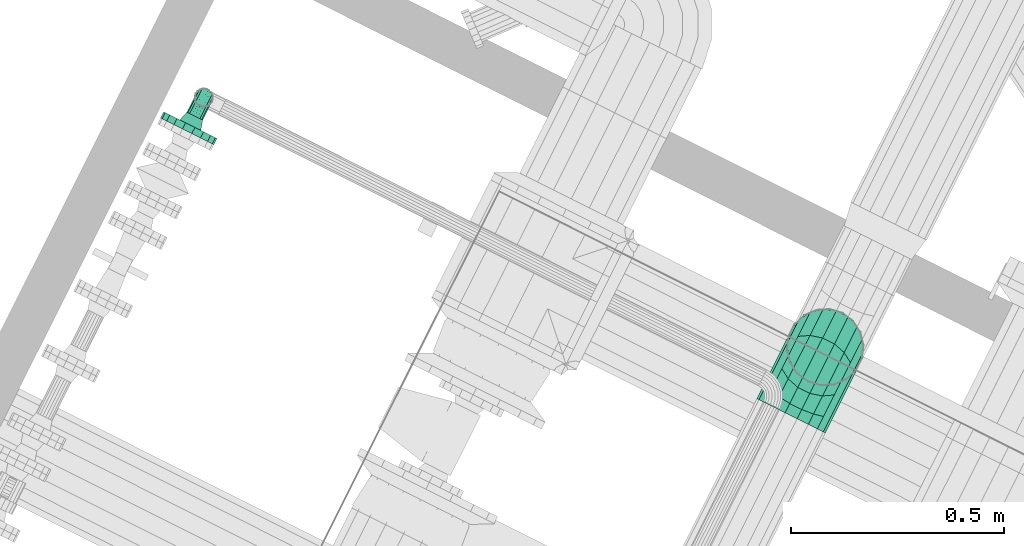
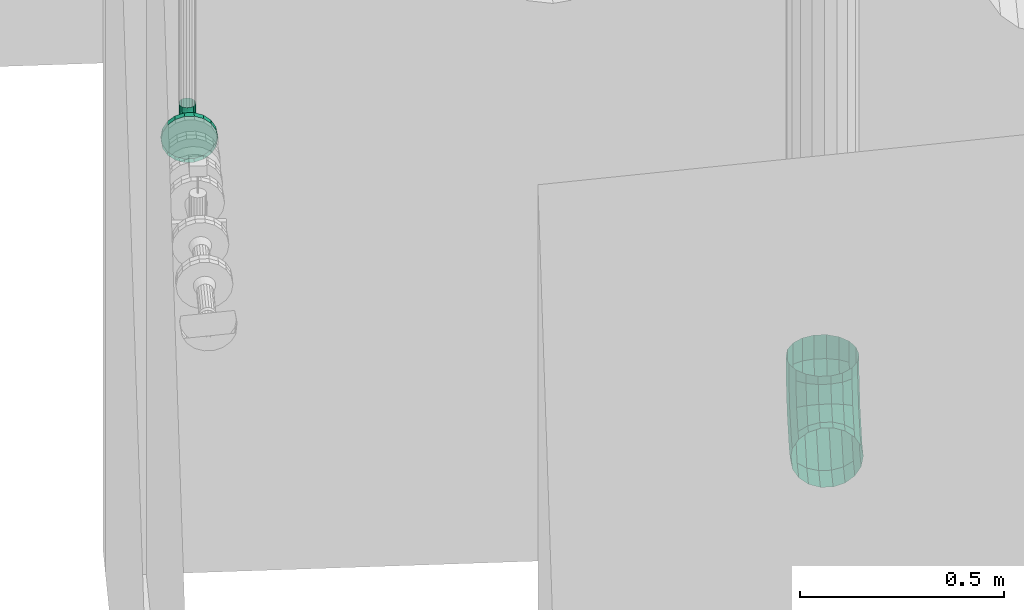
# One storey, part 148 of 206: 2 flow fittings, 1 flow segment.
"""IFC2X3 building model written with IfcOpenShell, lengths in metres."""

from ifc_helpers import new_model, si_unit, derived_unit, direction, frame, origin, place, context, subcontext, project, spatial, face_set, surface_model, source, transform, mapped, material, type_object, type_shapes, element, save


model = new_model("IFC2X3")

# Units and contexts
model_context = context("Model", 3, precision=5.2338327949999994e-05, world=origin(), true_north=direction((0.0, 1.0)))
body_context = subcontext(model_context, "Body", "Model", "MODEL_VIEW")
ifc_project = project(units=[si_unit("LENGTHUNIT", "METRE"), si_unit("AREAUNIT", "SQUARE_METRE"), si_unit("VOLUMEUNIT", "CUBIC_METRE"), si_unit("MASSUNIT", "GRAM", prefix="KILO"), si_unit("PLANEANGLEUNIT", "RADIAN"), derived_unit("THERMALTRANSMITTANCEUNIT", [(si_unit("MASSUNIT", "GRAM", prefix="KILO"), 1), (si_unit("THERMODYNAMICTEMPERATUREUNIT", "KELVIN"), -1), (si_unit("TIMEUNIT", "SECOND"), -3)])], contexts=[model_context])

# Site, building, storey
site_placement = place(None, frame((0.0, 0.0, 0.0), z_axis=(0.0, 0.0, 1.0), x_axis=(0.8939966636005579, -0.4480736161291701, 0.0)))
site = spatial("IfcSite", under=ifc_project, at=site_placement, Name="Default", CompositionType="ELEMENT")
building_placement = place(site_placement, origin())
building = spatial("IfcBuilding", under=site, at=building_placement, CompositionType="ELEMENT")
storey_placement = place(building_placement, origin())
storey = spatial("IfcBuildingStorey", under=building, at=storey_placement, Name="Erdgeschoss", CompositionType="ELEMENT", Elevation=0.0)

# Flow fittings
ifc_material_1 = material(Name="IfcSurfaceStyle #251447")
distribution_element_type_1 = type_object("IfcDistributionElementType", Name="Segmentbogen 4 teilig:Segmentbogen 4 teilig", material=ifc_material_1)
shared_shape_1 = source(origin(), body_context, "Body", "SurfaceModel", [
    surface_model("IfcFaceBasedSurfaceModel", [(30.56000000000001, 9.673208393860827, 0.539999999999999), (30.565427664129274, 9.673208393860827, 0.5707818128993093), (30.565427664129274, 9.713191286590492, 0.5707818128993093), (30.56000000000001, 9.721439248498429, 0.539999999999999), (30.581056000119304, 9.673208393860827, 0.5978508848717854), (30.581056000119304, 9.705938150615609, 0.5978508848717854), (30.605000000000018, 9.673208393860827, 0.6179422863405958), (30.605000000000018, 9.70055467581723, 0.6179422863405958), (30.634371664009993, 9.673208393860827, 0.628632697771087), (30.634371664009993, 9.697690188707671, 0.628632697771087), (30.665628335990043, 9.673208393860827, 0.6286326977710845), (30.665628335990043, 9.697690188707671, 0.6286326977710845), (30.69500000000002, 9.673208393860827, 0.6179422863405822), (30.69500000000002, 9.70055467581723, 0.6179422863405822), (30.71894399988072, 9.673208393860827, 0.597850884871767), (30.71894399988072, 9.705938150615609, 0.597850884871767), (30.73457233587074, 9.673208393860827, 0.5707818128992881), (30.73457233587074, 9.713191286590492, 0.5707818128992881), (30.740000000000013, 9.673208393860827, 0.5399999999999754), (30.740000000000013, 9.721439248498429, 0.5399999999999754), (30.734572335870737, 9.673208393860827, 0.5092181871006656), (30.734572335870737, 9.729687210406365, 0.5092181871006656), (30.718943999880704, 9.673208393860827, 0.4821491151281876), (30.718943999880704, 9.736940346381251, 0.4821491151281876), (30.695, 9.673208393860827, 0.46205771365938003), (30.695, 9.742323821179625, 0.46205771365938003), (30.66562833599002, 9.673208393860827, 0.45136730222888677), (30.66562833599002, 9.745188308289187, 0.45136730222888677), (30.63437166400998, 9.673208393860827, 0.4513673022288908), (30.63437166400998, 9.745188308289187, 0.4513673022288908), (30.604999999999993, 9.673208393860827, 0.46205771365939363), (30.604999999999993, 9.742323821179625, 0.46205771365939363), (30.58105600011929, 9.673208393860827, 0.48214911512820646), (30.58105600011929, 9.736940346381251, 0.48214911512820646), (30.56542766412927, 9.673208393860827, 0.5092181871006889), (30.56542766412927, 9.729687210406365, 0.5092181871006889), (30.565427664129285, 9.78244368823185, 0.6107647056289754), (30.560000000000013, 9.804977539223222, 0.5882308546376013), (30.58105600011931, 9.762627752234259, 0.6305806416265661), (30.60500000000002, 9.747919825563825, 0.645288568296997), (30.63437166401, 9.740093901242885, 0.6531144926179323), (30.665628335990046, 9.740093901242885, 0.6531144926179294), (30.69500000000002, 9.747919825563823, 0.6452885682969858), (30.71894399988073, 9.762627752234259, 0.6305806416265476), (30.734572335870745, 9.78244368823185, 0.610764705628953), (30.740000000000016, 9.804977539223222, 0.5882308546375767), (30.734572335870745, 9.8275113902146, 0.5656970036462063), (30.718943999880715, 9.84732732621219, 0.5458810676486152), (30.695000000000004, 9.862035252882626, 0.5311731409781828), (30.665628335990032, 9.869861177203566, 0.5233472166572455), (30.634371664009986, 9.869861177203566, 0.5233472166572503), (30.605000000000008, 9.862035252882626, 0.5311731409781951), (30.5810560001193, 9.847327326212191, 0.5458810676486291), (30.56542766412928, 9.8275113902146, 0.565697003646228), (30.565427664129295, 9.822426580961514, 0.6800171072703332), (30.560000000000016, 9.853208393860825, 0.6717691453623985), (30.58105600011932, 9.795357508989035, 0.6872702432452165), (30.605000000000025, 9.775266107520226, 0.69265371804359), (30.634371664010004, 9.764575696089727, 0.6955182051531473), (30.665628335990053, 9.764575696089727, 0.6955182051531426), (30.695000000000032, 9.775266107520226, 0.6926537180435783), (30.71894399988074, 9.795357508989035, 0.687270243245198), (30.73457233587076, 9.822426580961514, 0.6800171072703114), (30.74000000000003, 9.853208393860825, 0.6717691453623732), (30.73457233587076, 9.883990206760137, 0.663521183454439), (30.71894399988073, 9.911059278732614, 0.6562680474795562), (30.69500000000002, 9.931150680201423, 0.650884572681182), (30.665628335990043, 9.941841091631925, 0.6480200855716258), (30.634371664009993, 9.941841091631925, 0.6480200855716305), (30.605000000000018, 9.931150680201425, 0.6508845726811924), (30.58105600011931, 9.911059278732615, 0.656268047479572), (30.565427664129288, 9.883990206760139, 0.6635211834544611), (30.565427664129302, 9.822426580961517, 0.7199999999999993), (30.560000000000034, 9.853208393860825, 0.7200000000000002), (30.58105600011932, 9.795357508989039, 0.7199999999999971), (30.605000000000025, 9.775266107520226, 0.719999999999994), (30.634371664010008, 9.764575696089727, 0.7199999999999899), (30.665628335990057, 9.764575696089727, 0.7199999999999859), (30.695000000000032, 9.775266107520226, 0.7199999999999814), (30.718943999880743, 9.795357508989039, 0.7199999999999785), (30.73457233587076, 9.822426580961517, 0.7199999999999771), (30.740000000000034, 9.853208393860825, 0.7199999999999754), (30.73457233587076, 9.883990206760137, 0.7199999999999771), (30.718943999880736, 9.911059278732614, 0.7199999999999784), (30.695000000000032, 9.931150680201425, 0.7199999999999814), (30.665628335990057, 9.941841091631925, 0.7199999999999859), (30.634371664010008, 9.941841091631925, 0.7199999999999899), (30.605000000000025, 9.931150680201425, 0.719999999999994), (30.58105600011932, 9.911059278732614, 0.719999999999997), (30.565427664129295, 9.883990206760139, 0.7199999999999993)], [face_set([[[0, 1, 2, 3]], [[1, 4, 5, 2]], [[4, 6, 7, 5]], [[6, 8, 9, 7]], [[8, 10, 11, 9]], [[10, 12, 13, 11]], [[12, 14, 15, 13]], [[14, 16, 17, 15]], [[16, 18, 19, 17]], [[18, 20, 21, 19]], [[20, 22, 23, 21]], [[22, 24, 25, 23]], [[24, 26, 27, 25]], [[26, 28, 29, 27]], [[28, 30, 31, 29]], [[30, 32, 33, 31]], [[32, 34, 35, 33]], [[34, 0, 3, 35]], [[3, 2, 36, 37]], [[2, 5, 38, 36]], [[5, 7, 39, 38]], [[7, 9, 40, 39]], [[9, 11, 41, 40]], [[11, 13, 42, 41]], [[13, 15, 43, 42]], [[15, 17, 44, 43]], [[17, 19, 45, 44]], [[19, 21, 46, 45]], [[21, 23, 47, 46]], [[23, 25, 48, 47]], [[25, 27, 49, 48]], [[27, 29, 50, 49]], [[29, 31, 51, 50]], [[31, 33, 52, 51]], [[33, 35, 53, 52]], [[35, 3, 37, 53]], [[37, 36, 54, 55]], [[36, 38, 56, 54]], [[38, 39, 57, 56]], [[39, 40, 58, 57]], [[40, 41, 59, 58]], [[41, 42, 60, 59]], [[42, 43, 61, 60]], [[43, 44, 62, 61]], [[44, 45, 63, 62]], [[45, 46, 64, 63]], [[46, 47, 65, 64]], [[47, 48, 66, 65]], [[48, 49, 67, 66]], [[49, 50, 68, 67]], [[50, 51, 69, 68]], [[51, 52, 70, 69]], [[52, 53, 71, 70]], [[53, 37, 55, 71]], [[55, 54, 72, 73]], [[54, 56, 74, 72]], [[56, 57, 75, 74]], [[57, 58, 76, 75]], [[58, 59, 77, 76]], [[59, 60, 78, 77]], [[60, 61, 79, 78]], [[61, 62, 80, 79]], [[62, 63, 81, 80]], [[63, 64, 82, 81]], [[64, 65, 83, 82]], [[65, 66, 84, 83]], [[66, 67, 85, 84]], [[67, 68, 86, 85]], [[68, 69, 87, 86]], [[69, 70, 88, 87]], [[70, 71, 89, 88]], [[71, 55, 73, 89]]])]),
])
type_shapes(distribution_element_type_1, [shared_shape_1])
flow_fitting_1_placement = place(storey_placement, origin())
element("IfcFlowFitting", 1, at=flow_fitting_1_placement, inside=storey, type_object=distribution_element_type_1, material=ifc_material_1, Name="Segmentbogen 4 teilig", ObjectType="Segmentbogen 4 teilig", context=body_context, shape_type="MappedRepresentation", body=[
    mapped(shared_shape_1, transform((0.0, 0.0, 0.0), scale=1.0)),
])
ifc_material_2 = material(Name="IfcSurfaceStyle #352577")
distribution_element_type_2 = type_object("IfcDistributionElementType", Name="Flansch 611033:Flansch 611033", material=ifc_material_2)
shared_shape_2 = source(origin(), body_context, "Body", "SurfaceModel", [
    surface_model("IfcFaceBasedSurfaceModel", [(29.08181854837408, 9.675162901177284, 1.6052041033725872), (29.074567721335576, 9.675162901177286, 1.603925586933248), (29.072241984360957, 9.651162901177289, 1.6103154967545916), (29.08181854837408, 9.651162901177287, 1.6120041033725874), (29.06819145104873, 9.675162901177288, 1.600244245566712), (29.06382049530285, 9.651162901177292, 1.6054533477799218), (29.063458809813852, 9.675162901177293, 1.5946041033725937), (29.05756983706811, 9.651162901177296, 1.5980041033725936), (29.060940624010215, 9.675162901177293, 1.5876854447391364), (29.054243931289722, 9.651162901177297, 1.588866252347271), (29.060940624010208, 9.675162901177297, 1.580322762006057), (29.054243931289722, 9.6511629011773, 1.5791419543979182), (29.06345880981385, 9.675162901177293, 1.5734041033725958), (29.057569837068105, 9.651162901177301, 1.5700041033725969), (29.068191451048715, 9.675162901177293, 1.567763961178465), (29.063820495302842, 9.651162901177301, 1.5625548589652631), (29.074567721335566, 9.675162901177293, 1.564082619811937), (29.072241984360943, 9.651162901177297, 1.557692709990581), (29.081818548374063, 9.675162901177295, 1.5628041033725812), (29.08181854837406, 9.651162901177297, 1.5560041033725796), (29.08906937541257, 9.675162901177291, 1.5640826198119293), (29.091395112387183, 9.651162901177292, 1.5576927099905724), (29.095445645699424, 9.67516290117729, 1.5677639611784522), (29.099816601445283, 9.651162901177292, 1.5625548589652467), (29.1001782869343, 9.675162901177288, 1.5734041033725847), (29.10606725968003, 9.651162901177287, 1.5700041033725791), (29.102696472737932, 9.675162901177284, 1.580322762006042), (29.10939316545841, 9.651162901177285, 1.5791419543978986), (29.102696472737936, 9.675162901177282, 1.5876854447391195), (29.109393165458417, 9.651162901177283, 1.5888662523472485), (29.10017828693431, 9.675162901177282, 1.5946041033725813), (29.10606725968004, 9.651162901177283, 1.598004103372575), (29.09544564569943, 9.675162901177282, 1.6002442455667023), (29.0998166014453, 9.651162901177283, 1.6054533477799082), (29.08906937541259, 9.675162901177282, 1.6039255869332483), (29.091395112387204, 9.651162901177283, 1.6103154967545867), (29.15181854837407, 9.65116290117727, 1.5840041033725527), (29.14759703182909, 9.651162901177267, 1.6079455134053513), (29.147597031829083, 9.635162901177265, 1.6079455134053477), (29.15181854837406, 9.63516290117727, 1.5840041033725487), (29.13544165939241, 9.651162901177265, 1.628999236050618), (29.13544165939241, 9.635162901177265, 1.628999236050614), (29.116818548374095, 9.651162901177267, 1.644625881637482), (29.116818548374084, 9.635162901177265, 1.6446258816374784), (29.093973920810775, 9.65116290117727, 1.6529406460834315), (29.093973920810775, 9.635162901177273, 1.6529406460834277), (29.06966317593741, 9.651162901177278, 1.6529406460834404), (29.069663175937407, 9.635162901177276, 1.6529406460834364), (29.046818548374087, 9.651162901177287, 1.6446258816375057), (29.046818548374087, 9.635162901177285, 1.6446258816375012), (29.028195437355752, 9.651162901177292, 1.6289992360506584), (29.028195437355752, 9.635162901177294, 1.6289992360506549), (29.01604006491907, 9.651162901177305, 1.6079455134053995), (29.01604006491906, 9.635162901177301, 1.607945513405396), (29.011818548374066, 9.651162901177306, 1.5840041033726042), (29.011818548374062, 9.635162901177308, 1.5840041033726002), (29.01604006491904, 9.651162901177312, 1.5600626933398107), (29.01604006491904, 9.635162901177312, 1.5600626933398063), (29.028195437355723, 9.651162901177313, 1.5390089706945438), (29.028195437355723, 9.635162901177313, 1.5390089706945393), (29.046818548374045, 9.651162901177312, 1.5233823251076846), (29.04681854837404, 9.63516290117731, 1.5233823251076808), (29.06966317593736, 9.651162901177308, 1.5150675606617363), (29.069663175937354, 9.635162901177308, 1.5150675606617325), (29.09397392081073, 9.651162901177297, 1.5150675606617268), (29.09397392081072, 9.635162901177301, 1.5150675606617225), (29.11681854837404, 9.651162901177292, 1.523382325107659), (29.116818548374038, 9.635162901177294, 1.523382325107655), (29.135441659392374, 9.651162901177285, 1.5390089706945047), (29.135441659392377, 9.635162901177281, 1.539008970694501), (29.147597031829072, 9.651162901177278, 1.5600626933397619), (29.147597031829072, 9.635162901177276, 1.560062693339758), (29.081818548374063, 9.651162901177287, 1.5840041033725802)], [face_set([[[0, 1, 2, 3]], [[1, 4, 5, 2]], [[4, 6, 7, 5]], [[6, 8, 9, 7]], [[8, 10, 11, 9]], [[10, 12, 13, 11]], [[12, 14, 15, 13]], [[14, 16, 17, 15]], [[16, 18, 19, 17]], [[18, 20, 21, 19]], [[20, 22, 23, 21]], [[22, 24, 25, 23]], [[24, 26, 27, 25]], [[26, 28, 29, 27]], [[28, 30, 31, 29]], [[30, 32, 33, 31]], [[32, 34, 35, 33]], [[34, 0, 3, 35]], [[36, 37, 38, 39]], [[37, 40, 41, 38]], [[40, 42, 43, 41]], [[42, 44, 45, 43]], [[44, 46, 47, 45]], [[46, 48, 49, 47]], [[48, 50, 51, 49]], [[50, 52, 53, 51]], [[52, 54, 55, 53]], [[54, 56, 57, 55]], [[56, 58, 59, 57]], [[58, 60, 61, 59]], [[60, 62, 63, 61]], [[62, 64, 65, 63]], [[64, 66, 67, 65]], [[66, 68, 69, 67]], [[68, 70, 71, 69]], [[70, 36, 39, 71]], [[72, 37, 36]], [[72, 40, 37]], [[72, 42, 40]], [[72, 44, 42]], [[72, 46, 44]], [[72, 48, 46]], [[72, 50, 48]], [[72, 52, 50]], [[72, 54, 52]], [[72, 56, 54]], [[72, 58, 56]], [[72, 60, 58]], [[72, 62, 60]], [[72, 64, 62]], [[72, 66, 64]], [[72, 68, 66]], [[72, 70, 68]], [[72, 36, 70]]])]),
])
type_shapes(distribution_element_type_2, [shared_shape_2])
flow_fitting_2_placement = place(storey_placement, origin())
element("IfcFlowFitting", 2, at=flow_fitting_2_placement, inside=storey, type_object=distribution_element_type_2, material=ifc_material_2, Name="Flansch", ObjectType="Flansch", context=body_context, shape_type="MappedRepresentation", body=[
    mapped(shared_shape_2, transform((0.0, 0.0, 0.0), scale=1.0)),
])

# Flow segment
distribution_element_type_3 = type_object("IfcDistributionElementType", Name="Rohrbogen 611056:Rohrbogen 611056", material=ifc_material_2)
shared_shape_3 = source(origin(), body_context, "Body", "SurfaceModel", [
    surface_model("IfcFaceBasedSurfaceModel", [(29.08181854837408, 9.744362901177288, 1.6320041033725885), (29.089069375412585, 9.74308438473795, 1.6320041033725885), (29.089069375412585, 9.73976007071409, 1.611015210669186), (29.08181854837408, 9.74097601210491, 1.6106201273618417), (29.089069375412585, 9.730112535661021, 1.5920808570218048), (29.08181854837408, 9.731146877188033, 1.5913293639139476), (29.089069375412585, 9.71508614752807, 1.5770544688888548), (29.08181854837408, 9.715837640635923, 1.5760201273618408), (29.089069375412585, 9.696151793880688, 1.5674069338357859), (29.08181854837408, 9.696546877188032, 1.5661909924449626), (29.08906937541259, 9.675162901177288, 1.5640826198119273), (29.081818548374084, 9.675162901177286, 1.5628041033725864), (29.09544564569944, 9.739403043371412, 1.6320041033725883), (29.09544564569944, 9.736258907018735, 1.6121528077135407), (29.09544564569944, 9.727134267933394, 1.5942446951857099), (29.09544564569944, 9.712922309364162, 1.5800327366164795), (29.09544564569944, 9.695014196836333, 1.5709080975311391), (29.095445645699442, 9.675162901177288, 1.5677639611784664), (29.10017828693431, 9.733762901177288, 1.632004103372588), (29.10017828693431, 9.73089481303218, 1.613895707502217), (29.10017828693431, 9.722571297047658, 1.5975598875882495), (29.10017828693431, 9.709607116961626, 1.584595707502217), (29.10017828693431, 9.693271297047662, 1.576272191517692), (29.10017828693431, 9.67516290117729, 1.5734041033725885), (29.102696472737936, 9.726844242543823, 1.6320041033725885), (29.102696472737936, 9.724314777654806, 1.6160336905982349), (29.10269647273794, 9.71697398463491, 1.6016265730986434), (29.10269647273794, 9.705540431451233, 1.5901930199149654), (29.10269647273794, 9.691133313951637, 1.5828522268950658), (29.102696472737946, 9.675162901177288, 1.5803227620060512), (29.10269647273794, 9.71948155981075, 1.6320041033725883), (29.102696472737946, 9.717312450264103, 1.6183088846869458), (29.10269647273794, 9.711017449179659, 1.6059542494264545), (29.10269647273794, 9.70121275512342, 1.5961495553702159), (29.10269647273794, 9.688858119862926, 1.5898545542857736), (29.10269647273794, 9.675162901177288, 1.5876854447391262), (29.10017828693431, 9.712562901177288, 1.632004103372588), (29.10017828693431, 9.710732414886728, 1.6204468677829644), (29.10017828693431, 9.705420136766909, 1.6100209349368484), (29.10017828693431, 9.697146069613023, 1.6017468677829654), (29.10017828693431, 9.686720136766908, 1.5964345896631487), (29.100178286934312, 9.675162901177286, 1.5946041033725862), (29.09544564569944, 9.706922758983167, 1.6320041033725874), (29.09544564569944, 9.705368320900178, 1.62218976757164), (29.09544564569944, 9.700857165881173, 1.6133361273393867), (29.09544564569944, 9.69383087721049, 1.6063098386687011), (29.09544564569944, 9.68497723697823, 1.601798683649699), (29.09544564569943, 9.675162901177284, 1.6002442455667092), (29.08906937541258, 9.703241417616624, 1.6320041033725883), (29.08906937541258, 9.70186715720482, 1.6233273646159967), (29.089069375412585, 9.697878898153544, 1.615499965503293), (29.089069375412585, 9.69166703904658, 1.6092881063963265), (29.089069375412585, 9.683839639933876, 1.6052998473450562), (29.08906937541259, 9.675162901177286, 1.603925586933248), (29.08181854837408, 9.701962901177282, 1.6320041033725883), (29.081818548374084, 9.700651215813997, 1.6237224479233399), (29.08181854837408, 9.696844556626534, 1.6162514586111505), (29.081818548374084, 9.690915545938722, 1.6103224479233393), (29.081818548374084, 9.683444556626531, 1.606515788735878), (29.081818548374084, 9.675162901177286, 1.6052041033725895), (29.074567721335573, 9.703241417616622, 1.6320041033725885), (29.074567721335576, 9.70186715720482, 1.6233273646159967), (29.074567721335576, 9.697878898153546, 1.6154999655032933), (29.07456772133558, 9.691667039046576, 1.609288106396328), (29.074567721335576, 9.683839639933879, 1.6052998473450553), (29.074567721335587, 9.675162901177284, 1.6039255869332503), (29.068191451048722, 9.706922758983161, 1.632004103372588), (29.068191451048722, 9.705368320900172, 1.6221897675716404), (29.06819145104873, 9.700857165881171, 1.6133361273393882), (29.068191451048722, 9.69383087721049, 1.6063098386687), (29.068191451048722, 9.68497723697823, 1.6017986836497), (29.068191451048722, 9.675162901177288, 1.6002442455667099), (29.063458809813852, 9.71256290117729, 1.632004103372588), (29.063458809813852, 9.710732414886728, 1.6204468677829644), (29.063458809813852, 9.70542013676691, 1.6100209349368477), (29.063458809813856, 9.69714606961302, 1.6017468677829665), (29.063458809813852, 9.686720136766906, 1.596434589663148), (29.063458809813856, 9.675162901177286, 1.5946041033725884), (29.06094062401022, 9.719481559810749, 1.6320041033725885), (29.06094062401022, 9.717312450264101, 1.618308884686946), (29.06094062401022, 9.711017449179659, 1.6059542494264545), (29.06094062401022, 9.701212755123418, 1.596149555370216), (29.06094062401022, 9.688858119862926, 1.5898545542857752), (29.06094062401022, 9.675162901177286, 1.5876854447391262), (29.06094062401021, 9.726844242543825, 1.6320041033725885), (29.060940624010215, 9.724314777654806, 1.6160336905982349), (29.06094062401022, 9.71697398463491, 1.6016265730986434), (29.06094062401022, 9.705540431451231, 1.5901930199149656), (29.060940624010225, 9.691133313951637, 1.5828522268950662), (29.060940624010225, 9.675162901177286, 1.580322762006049), (29.063458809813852, 9.733762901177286, 1.6320041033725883), (29.063458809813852, 9.730894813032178, 1.6138957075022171), (29.063458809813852, 9.72257129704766, 1.5975598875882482), (29.063458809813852, 9.709607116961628, 1.5845957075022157), (29.063458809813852, 9.693271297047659, 1.5762721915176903), (29.063458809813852, 9.675162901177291, 1.5734041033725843), (29.06819145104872, 9.739403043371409, 1.6320041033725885), (29.06819145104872, 9.736258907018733, 1.6121528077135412), (29.068191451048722, 9.727134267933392, 1.5942446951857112), (29.068191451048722, 9.712922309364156, 1.5800327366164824), (29.068191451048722, 9.695014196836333, 1.5709080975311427), (29.06819145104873, 9.675162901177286, 1.5677639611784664), (29.074567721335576, 9.743084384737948, 1.6320041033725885), (29.074567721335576, 9.73976007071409, 1.611015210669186), (29.074567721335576, 9.73011253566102, 1.5920808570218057), (29.074567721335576, 9.715086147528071, 1.5770544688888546), (29.074567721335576, 9.696151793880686, 1.5674069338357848), (29.07456772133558, 9.675162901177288, 1.5640826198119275)], [face_set([[[0, 1, 2, 3]], [[3, 2, 4, 5]], [[5, 4, 6, 7]], [[7, 6, 8, 9]], [[9, 8, 10, 11]], [[1, 12, 13, 2]], [[2, 13, 14, 4]], [[4, 14, 15, 6]], [[6, 15, 16, 8]], [[8, 16, 17, 10]], [[12, 18, 19, 13]], [[13, 19, 20, 14]], [[14, 20, 21, 15]], [[15, 21, 22, 16]], [[16, 22, 23, 17]], [[18, 24, 25, 19]], [[19, 25, 26, 20]], [[20, 26, 27, 21]], [[21, 27, 28, 22]], [[22, 28, 29, 23]], [[24, 30, 31, 25]], [[25, 31, 32, 26]], [[26, 32, 33, 27]], [[27, 33, 34, 28]], [[28, 34, 35, 29]], [[30, 36, 37, 31]], [[31, 37, 38, 32]], [[32, 38, 39, 33]], [[33, 39, 40, 34]], [[34, 40, 41, 35]], [[36, 42, 43, 37]], [[37, 43, 44, 38]], [[38, 44, 45, 39]], [[39, 45, 46, 40]], [[40, 46, 47, 41]], [[42, 48, 49, 43]], [[43, 49, 50, 44]], [[44, 50, 51, 45]], [[45, 51, 52, 46]], [[46, 52, 53, 47]], [[48, 54, 55, 49]], [[49, 55, 56, 50]], [[50, 56, 57, 51]], [[51, 57, 58, 52]], [[52, 58, 59, 53]], [[54, 60, 61, 55]], [[55, 61, 62, 56]], [[56, 62, 63, 57]], [[57, 63, 64, 58]], [[58, 64, 65, 59]], [[60, 66, 67, 61]], [[61, 67, 68, 62]], [[62, 68, 69, 63]], [[63, 69, 70, 64]], [[64, 70, 71, 65]], [[66, 72, 73, 67]], [[67, 73, 74, 68]], [[68, 74, 75, 69]], [[69, 75, 76, 70]], [[70, 76, 77, 71]], [[72, 78, 79, 73]], [[73, 79, 80, 74]], [[74, 80, 81, 75]], [[75, 81, 82, 76]], [[76, 82, 83, 77]], [[78, 84, 85, 79]], [[79, 85, 86, 80]], [[80, 86, 87, 81]], [[81, 87, 88, 82]], [[82, 88, 89, 83]], [[84, 90, 91, 85]], [[85, 91, 92, 86]], [[86, 92, 93, 87]], [[87, 93, 94, 88]], [[88, 94, 95, 89]], [[90, 96, 97, 91]], [[91, 97, 98, 92]], [[92, 98, 99, 93]], [[93, 99, 100, 94]], [[94, 100, 101, 95]], [[96, 102, 103, 97]], [[97, 103, 104, 98]], [[98, 104, 105, 99]], [[99, 105, 106, 100]], [[100, 106, 107, 101]], [[102, 0, 3, 103]], [[103, 3, 5, 104]], [[104, 5, 7, 105]], [[105, 7, 9, 106]], [[106, 9, 11, 107]]])]),
])
type_shapes(distribution_element_type_3, [shared_shape_3])
flow_segment_placement = place(storey_placement, origin())
element("IfcFlowSegment", 3, at=flow_segment_placement, inside=storey, type_object=distribution_element_type_3, material=ifc_material_2, Name="Rohrbogen", ObjectType="Rohrbogen", context=body_context, shape_type="MappedRepresentation", body=[
    mapped(shared_shape_3, transform((0.0, 0.0, 0.0), scale=1.0)),
])

save(model, "model.ifc")
